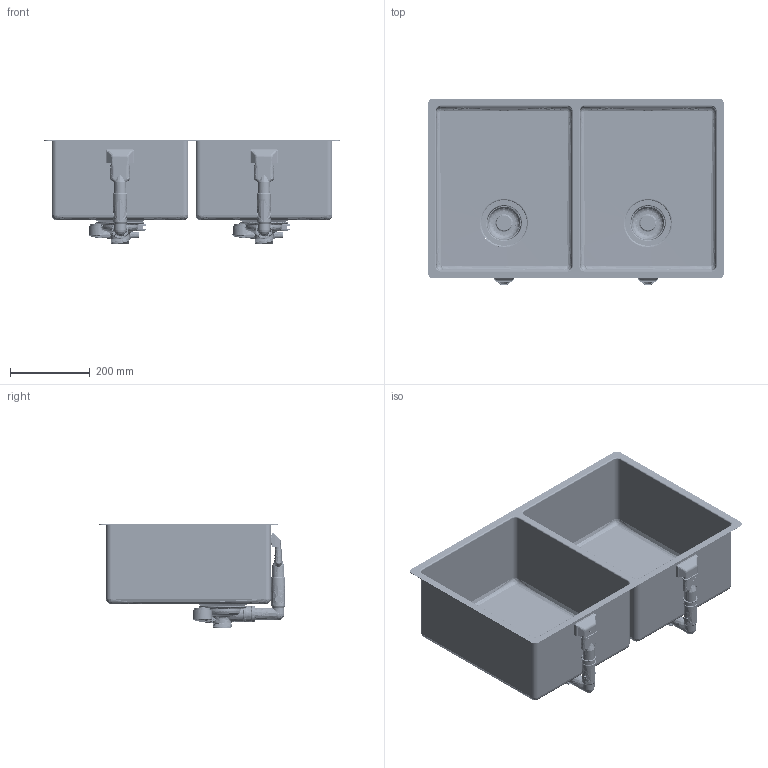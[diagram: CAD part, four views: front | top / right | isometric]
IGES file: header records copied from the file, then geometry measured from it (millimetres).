
Global section: file name: J:\2016\CLX\FRANKE\materiale ricevuto\Sinks\Sinks\Franke Box\Requested\220_120 34-34\BXX_220_120_34-34.igs; native system: Rhinoceros ( Jun  9 2014 ); preprocessor: Trout Lake IGES 012 Jun  9 2014; date: 160408.143039; units: millimetre
Bounding box: 740 x 467.49 x 259.67 mm (x, y, z)
Surface area: 2172606.5 mm2 (no closed solid volume)
Topology: 0 solids, 0 shells, 11249 faces, 100406 edges, 100025 vertices
Faces by surface type: bspline 11249
